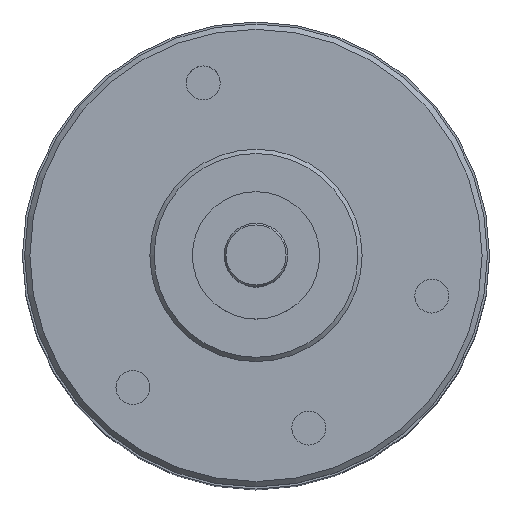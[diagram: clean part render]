
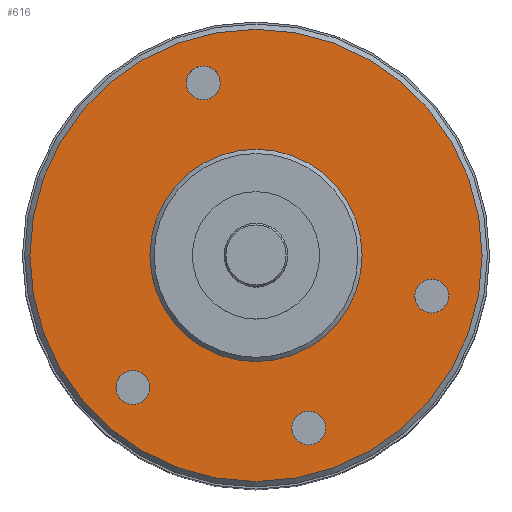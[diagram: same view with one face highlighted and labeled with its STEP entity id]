
A CAD part, top view. The second image highlights one B-rep face of the part: STEP entity #616.
In plain terms, the highlighted planar face has unit normal (0, 0, 1).
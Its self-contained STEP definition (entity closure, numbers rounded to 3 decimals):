
#616=ADVANCED_FACE('',(#815,#816,#817,#818,#819,#820),#729,.T.);
#729=PLANE('',#1933);
#815=FACE_BOUND('',#908,.T.);
#816=FACE_BOUND('',#909,.T.);
#817=FACE_BOUND('',#910,.T.);
#818=FACE_BOUND('',#911,.T.);
#819=FACE_BOUND('',#912,.T.);
#820=FACE_BOUND('',#913,.T.);
#908=EDGE_LOOP('',(#1077));
#909=EDGE_LOOP('',(#1078));
#910=EDGE_LOOP('',(#1079));
#911=EDGE_LOOP('',(#1080));
#912=EDGE_LOOP('',(#1081));
#913=EDGE_LOOP('',(#1082));
#1077=ORIENTED_EDGE('',*,*,#1664,.F.);
#1078=ORIENTED_EDGE('',*,*,#1665,.T.);
#1079=ORIENTED_EDGE('',*,*,#1666,.T.);
#1080=ORIENTED_EDGE('',*,*,#1667,.T.);
#1081=ORIENTED_EDGE('',*,*,#1668,.T.);
#1082=ORIENTED_EDGE('',*,*,#1669,.T.);
#1506=VERTEX_POINT('',#2485);
#1507=VERTEX_POINT('',#2487);
#1508=VERTEX_POINT('',#2489);
#1509=VERTEX_POINT('',#2491);
#1510=VERTEX_POINT('',#2493);
#1511=VERTEX_POINT('',#2495);
#1664=EDGE_CURVE('',#1506,#1506,#1879,.T.);
#1665=EDGE_CURVE('',#1507,#1507,#1880,.T.);
#1666=EDGE_CURVE('',#1508,#1508,#1881,.T.);
#1667=EDGE_CURVE('',#1509,#1509,#1882,.T.);
#1668=EDGE_CURVE('',#1510,#1510,#1883,.T.);
#1669=EDGE_CURVE('',#1511,#1511,#1884,.T.);
#1879=CIRCLE('',#1927,5.);
#1880=CIRCLE('',#1928,0.8);
#1881=CIRCLE('',#1929,0.8);
#1882=CIRCLE('',#1930,0.8);
#1883=CIRCLE('',#1931,0.8);
#1884=CIRCLE('',#1932,10.65);
#1927=AXIS2_PLACEMENT_3D('',#2484,#2088,#2089);
#1928=AXIS2_PLACEMENT_3D('',#2486,#2090,#2091);
#1929=AXIS2_PLACEMENT_3D('',#2488,#2092,#2093);
#1930=AXIS2_PLACEMENT_3D('',#2490,#2094,#2095);
#1931=AXIS2_PLACEMENT_3D('',#2492,#2096,#2097);
#1932=AXIS2_PLACEMENT_3D('',#2494,#2098,#2099);
#1933=AXIS2_PLACEMENT_3D('',#2496,#2100,#2101);
#2088=DIRECTION('',(0.,0.,1.));
#2089=DIRECTION('',(1.,0.,0.));
#2090=DIRECTION('',(0.,0.,-1.));
#2091=DIRECTION('',(-1.,0.,0.));
#2092=DIRECTION('',(0.,0.,-1.));
#2093=DIRECTION('',(-1.,0.,0.));
#2094=DIRECTION('',(0.,0.,-1.));
#2095=DIRECTION('',(-1.,0.,0.));
#2096=DIRECTION('',(0.,0.,-1.));
#2097=DIRECTION('',(-1.,0.,0.));
#2098=DIRECTION('',(0.,0.,1.));
#2099=DIRECTION('',(1.,0.,0.));
#2100=DIRECTION('',(0.,0.,1.));
#2101=DIRECTION('',(1.,0.,0.));
#2484=CARTESIAN_POINT('',(0.,0.,0.));
#2485=CARTESIAN_POINT('',(5.,0.,0.));
#2486=CARTESIAN_POINT('',(2.485,-8.129,0.));
#2487=CARTESIAN_POINT('',(1.685,-8.129,0.));
#2488=CARTESIAN_POINT('',(8.282,-1.912,0.));
#2489=CARTESIAN_POINT('',(7.482,-1.912,0.));
#2490=CARTESIAN_POINT('',(-5.797,-6.217,0.));
#2491=CARTESIAN_POINT('',(-6.597,-6.217,0.));
#2492=CARTESIAN_POINT('',(-2.485,8.129,0.));
#2493=CARTESIAN_POINT('',(-3.285,8.129,0.));
#2494=CARTESIAN_POINT('',(0.,0.,0.));
#2495=CARTESIAN_POINT('',(10.65,0.,0.));
#2496=CARTESIAN_POINT('',(11.,0.,0.));
